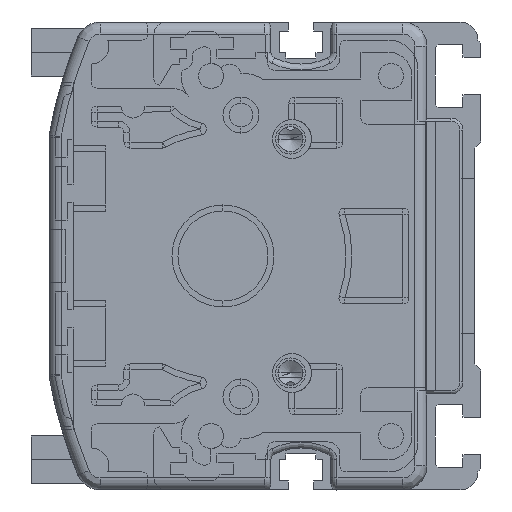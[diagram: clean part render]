
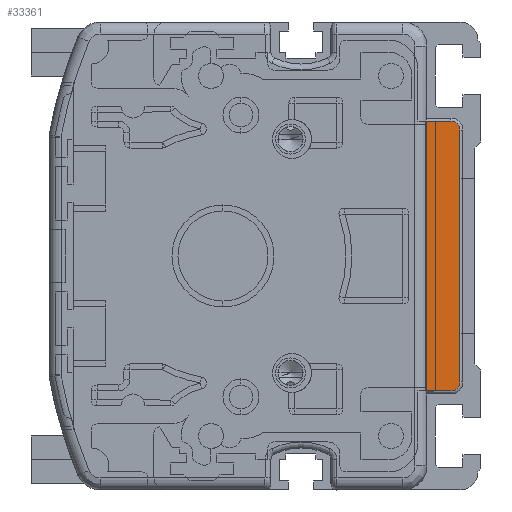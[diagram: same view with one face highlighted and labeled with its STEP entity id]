
A CAD part, left-side view. The second image highlights one B-rep face of the part: STEP entity #33361.
In plain terms, the highlighted planar face has unit normal (-1, 0, 0).
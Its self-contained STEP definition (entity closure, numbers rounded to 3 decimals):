
#27916=DIRECTION('',(0.,0.,-1.));
#27917=VECTOR('',#27916,45.);
#27918=CARTESIAN_POINT('',(-2.,9.268,22.5));
#27919=LINE('',#27918,#27917);
#27951=CARTESIAN_POINT('',(-2.,5.,21.));
#27952=DIRECTION('',(1.,0.,0.));
#27953=DIRECTION('',(0.,0.,1.));
#27954=AXIS2_PLACEMENT_3D('',#27951,#27952,#27953);
#27956=CARTESIAN_POINT('',(-2.,5.,-21.));
#27957=DIRECTION('',(1.,0.,0.));
#27958=DIRECTION('',(0.,-1.,0.));
#27959=AXIS2_PLACEMENT_3D('',#27956,#27957,#27958);
#27965=DIRECTION('',(0.,-1.,0.));
#27966=VECTOR('',#27965,4.268);
#27967=CARTESIAN_POINT('',(-2.,9.268,-22.5));
#27968=LINE('',#27967,#27966);
#28499=DIRECTION('',(0.,0.,1.));
#28500=VECTOR('',#28499,42.);
#28501=CARTESIAN_POINT('',(-2.,3.5,-21.));
#28502=LINE('',#28501,#28500);
#28522=DIRECTION('',(0.,1.,0.));
#28523=VECTOR('',#28522,4.268);
#28524=CARTESIAN_POINT('',(-2.,5.,22.5));
#28525=LINE('',#28524,#28523);
#31808=CARTESIAN_POINT('',(-2.,9.268,22.5));
#31809=CARTESIAN_POINT('',(-2.,9.268,-22.5));
#31810=VERTEX_POINT('',#31808);
#31811=VERTEX_POINT('',#31809);
#31821=CARTESIAN_POINT('',(-2.,5.,-22.5));
#31822=VERTEX_POINT('',#31821);
#31823=CARTESIAN_POINT('',(-2.,3.5,-21.));
#31824=VERTEX_POINT('',#31823);
#31825=CARTESIAN_POINT('',(-2.,3.5,21.));
#31826=VERTEX_POINT('',#31825);
#31827=CARTESIAN_POINT('',(-2.,5.,22.5));
#31828=VERTEX_POINT('',#31827);
#33343=CARTESIAN_POINT('',(-2.,6.384,0.));
#33344=DIRECTION('',(1.,0.,0.));
#33345=DIRECTION('',(0.,0.,-1.));
#33346=AXIS2_PLACEMENT_3D('',#33343,#33344,#33345);
#33347=PLANE('',#33346);
#33349=ORIENTED_EDGE('',*,*,#33348,.F.);
#33350=ORIENTED_EDGE('',*,*,#33322,.F.);
#33352=ORIENTED_EDGE('',*,*,#33351,.F.);
#33354=ORIENTED_EDGE('',*,*,#33353,.T.);
#33356=ORIENTED_EDGE('',*,*,#33355,.F.);
#33358=ORIENTED_EDGE('',*,*,#33357,.T.);
#33359=EDGE_LOOP('',(#33349,#33350,#33352,#33354,#33356,#33358));
#33360=FACE_OUTER_BOUND('',#33359,.F.);
#33361=ADVANCED_FACE('',(#33360),#33347,.F.);
#27955=CIRCLE('',#27954,1.5);
#27960=CIRCLE('',#27959,1.5);
#33322=EDGE_CURVE('',#31810,#31811,#27919,.T.);
#33348=EDGE_CURVE('',#31811,#31822,#27968,.T.);
#33351=EDGE_CURVE('',#31828,#31810,#28525,.T.);
#33353=EDGE_CURVE('',#31828,#31826,#27955,.T.);
#33355=EDGE_CURVE('',#31824,#31826,#28502,.T.);
#33357=EDGE_CURVE('',#31824,#31822,#27960,.T.);
